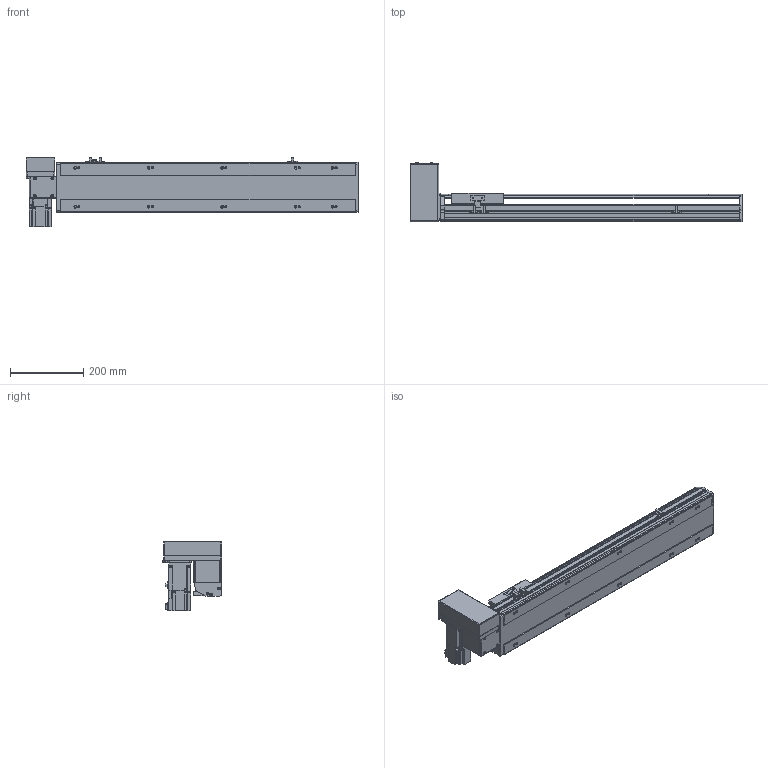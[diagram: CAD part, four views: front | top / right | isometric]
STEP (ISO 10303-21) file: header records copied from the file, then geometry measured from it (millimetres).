
FILE_DESCRIPTION( ( 'STEP AP214' ), '1' );
FILE_NAME( 'x:/temp/worker_4/temp/exporttempdir_2248_98_Urm0j/format_0/PBS140-P40-S550-RU-T40-C1-N(0).stp', '2022-06-07T05:53:38', ( 'License CC BY-ND 4.0' ), ( 'CADENAS' ), ' ', 'PARTsolutions', ' ' );
FILE_SCHEMA( ( 'AUTOMOTIVE_DESIGN { 1 0 10303 214 1 1 1 1 }' ) );
Length unit declared in the file: millimetre
Products named in the file (7): PBS140-P40-S550-RU-T40-C1-N(0); _PBS140-S550()_body; _PBS140T-RU_motors; _T40-p1; _PBS140_sliser; _PBS140_plant; _PBS140_sensor
Assembly tree (8 placements, depth 2):
  PBS140-P40-S550-RU-T40-C1-N(0)
    _PBS140-S550()_body
    _PBS140T-RU_motors
    _T40-p1
    _PBS140_sliser
    _PBS140_plant
    _PBS140_sensor  x3
Bounding box: 904 x 162.5 x 189.7 mm (x, y, z)
Volume: 4626106.8 mm3; surface area: 827813 mm2
Topology: 8 solids, 8 shells, 1027 faces, 2716 edges, 1775 vertices
Faces by surface type: plane 674, cylinder 307, cone 36, sphere 8, torus 2
Full cylindrical faces by diameter (mm): 3.242 x4, 4 x2, 4.134 x4, 4.4 x8, 4.5 x2, 4.8 x4, 4.917 x18, 5.5 x7, 6 x2, 7 x12, 7.5 x8, 8 x12, 8.5 x4, 10.5 x10, 14 x1, 30 x2, 50 x2
Entity records: 37363 total; most frequent: CARTESIAN_POINT 5747, DIRECTION 4987, ORIENTED_EDGE 4732, EDGE_CURVE 2366, AXIS2_PLACEMENT_3D 1717, VERTEX_POINT 1629, LINE 1553, VECTOR 1553
